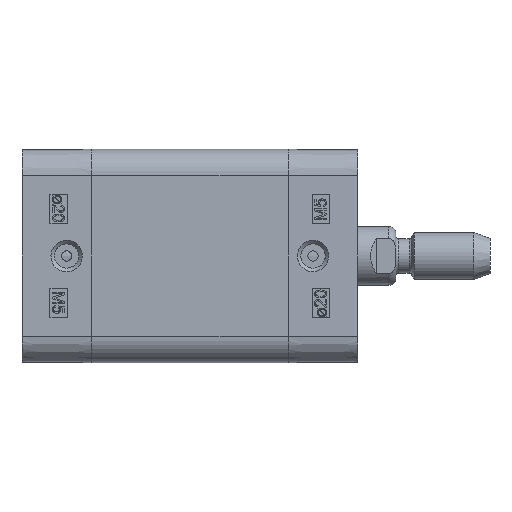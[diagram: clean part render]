
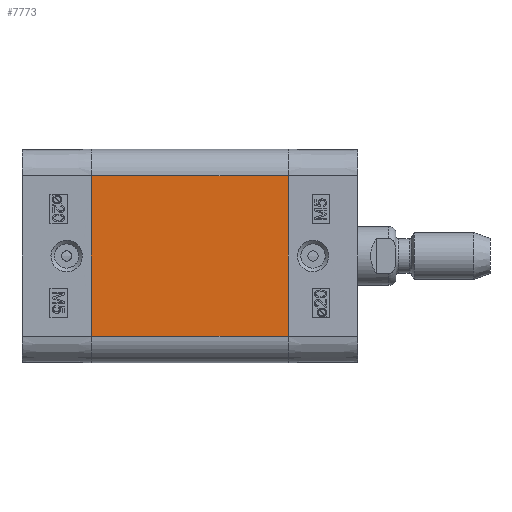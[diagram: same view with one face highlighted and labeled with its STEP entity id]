
A CAD part, left-side view. The second image highlights one B-rep face of the part: STEP entity #7773.
In plain terms, the highlighted planar face has unit normal (-1, 0, 0).
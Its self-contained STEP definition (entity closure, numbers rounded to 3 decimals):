
#6294=CARTESIAN_POINT('',(-18.15,-33.5,13.65));
#6295=VERTEX_POINT('',#6294);
#6302=CARTESIAN_POINT('',(-18.15,-33.5,-13.65));
#6303=VERTEX_POINT('',#6302);
#6304=CARTESIAN_POINT('',(-18.15,-33.5,-13.65));
#6305=DIRECTION('',(0.0,0.0,1.0));
#6306=VECTOR('',#6305,27.3);
#6307=LINE('',#6304,#6306);
#6308=EDGE_CURVE('',#6303,#6295,#6307,.T.);
#7731=CARTESIAN_POINT('',(-18.15,0.0,-13.65));
#7732=VERTEX_POINT('',#7731);
#7733=CARTESIAN_POINT('',(-18.15,0.0,-13.65));
#7734=DIRECTION('',(0.0,-1.0,0.0));
#7735=VECTOR('',#7734,33.5);
#7736=LINE('',#7733,#7735);
#7737=EDGE_CURVE('',#7732,#6303,#7736,.T.);
#7750=CARTESIAN_POINT('',(-18.15,0.0,-13.65));
#7751=DIRECTION('',(-1.0,0.0,0.0));
#7752=DIRECTION('',(0.0,0.0,1.0));
#7753=AXIS2_PLACEMENT_3D('',#7750,#7751,#7752);
#7754=PLANE('',#7753);
#7755=ORIENTED_EDGE('',*,*,#6308,.T.);
#7756=CARTESIAN_POINT('',(-18.15,0.0,13.65));
#7757=VERTEX_POINT('',#7756);
#7758=CARTESIAN_POINT('',(-18.15,0.0,13.65));
#7759=DIRECTION('',(0.0,-1.0,0.0));
#7760=VECTOR('',#7759,33.5);
#7761=LINE('',#7758,#7760);
#7762=EDGE_CURVE('',#7757,#6295,#7761,.T.);
#7763=ORIENTED_EDGE('',*,*,#7762,.F.);
#7764=CARTESIAN_POINT('',(-18.15,0.0,-13.65));
#7765=DIRECTION('',(0.0,0.0,1.0));
#7766=VECTOR('',#7765,27.3);
#7767=LINE('',#7764,#7766);
#7768=EDGE_CURVE('',#7732,#7757,#7767,.T.);
#7769=ORIENTED_EDGE('',*,*,#7768,.F.);
#7770=ORIENTED_EDGE('',*,*,#7737,.T.);
#7771=EDGE_LOOP('',(#7755,#7763,#7769,#7770));
#7772=FACE_OUTER_BOUND('',#7771,.T.);
#7773=ADVANCED_FACE('',(#7772),#7754,.T.);
